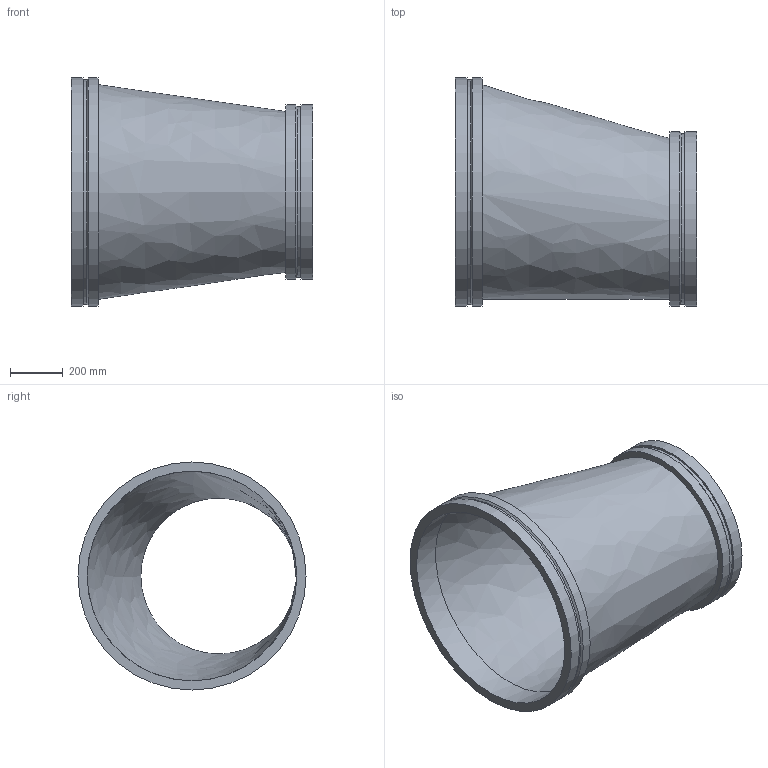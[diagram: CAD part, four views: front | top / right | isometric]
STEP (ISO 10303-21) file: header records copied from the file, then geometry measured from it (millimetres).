
FILE_DESCRIPTION(/* description */ ('VIC REDUCER ECCENTRIC No W51-VR','CAx-IF Rec.Pracs.---Representation and Presentation of Product Manufacturing Information (PMI)---4.0---2014-10-13'),/* implementation_level */ '2;1');
FILE_NAME(/* name */ 'C:\Users\kkamble\AppData\Roaming\Autodesk\ApplicationPlugins\Back Up\Victaulic_Vic-Ring_Reducer Eccentric_No W51 VR (AGR)\Victaulic_Vic-Ring_Reducer Eccentric_No W51 VR (AGR)_32.0x24.0 (800x600).stp',/* time_stamp */ '2020-09-10T11:50:18+05:00',/* author */ ('CONSTRUCTION PIPING SERVICES'),/* organization */ ('Victaulic'),/* preprocessor_version */ 'ST-DEVELOPER v17.2',/* originating_system */ 'Autodesk Inventor 2019',/* authorisation */ '');
FILE_SCHEMA (('AP242_MANAGED_MODEL_BASED_3D_ENGINEERING_MIM_LF { 1 0 10303 442 1 1 4 }'));
Length unit declared in the file: inch
Products named in the file (1): W51 VR-32.0x24.0
Bounding box: 914.4 x 863.6 x 863.6 mm (x, y, z)
Volume: 30573495.2 mm3; surface area: 4437057.5 mm2
Topology: 1 solids, 1 shells, 18 faces, 49 edges, 37 vertices
Faces by surface type: cylinder 8, plane 6, cone 2, bspline 2
Full cylindrical faces by diameter (mm): 590.55 x1, 645.922 x1, 660.4 x2, 793.75 x1, 849.122 x1, 863.6 x2
Entity records: 792 total; most frequent: CARTESIAN_POINT 158, DIRECTION 144, ORIENTED_EDGE 98, AXIS2_PLACEMENT_3D 67, EDGE_CURVE 49, CIRCLE 37, VERTEX_POINT 37, EDGE_LOOP 24
